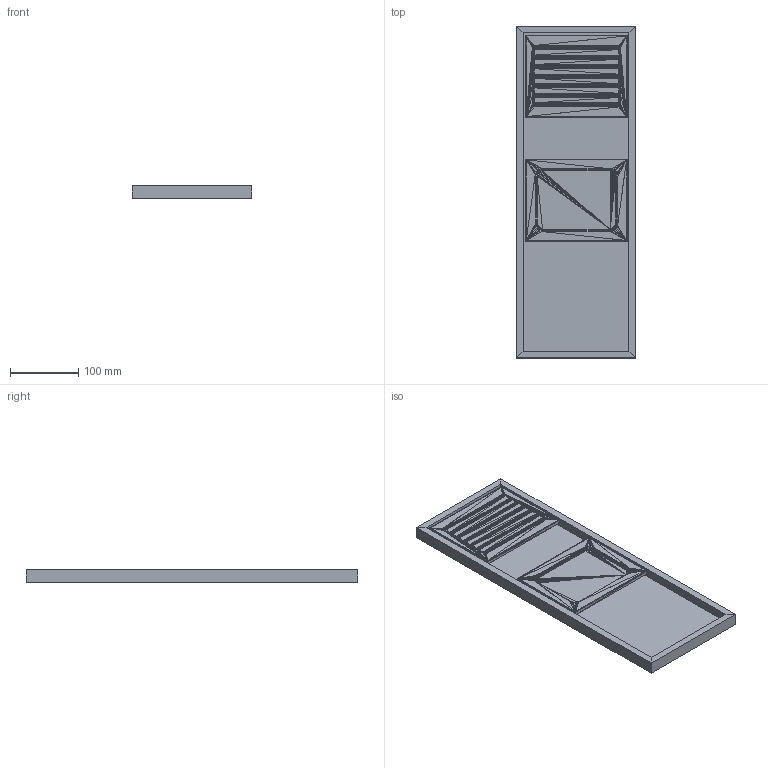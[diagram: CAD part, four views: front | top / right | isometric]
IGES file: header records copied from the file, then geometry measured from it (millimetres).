
Start section: Data from Parasolid IGES Translator 19.0.9, Copyright(c) 2006 Siemens PL M Software. All Rights Reserved.
Global section: file name: noorth_vassoio per top finn | tray for top finn_2960.igs; native system: By Siemens PLM Incorporated; preprocessor: XPlus GENERIC/IGES 19.0.9; author: Noname; organization: Noname; date: 20200903.085045; units: metre
Bounding box: 175 x 486 x 18 mm (x, y, z)
Volume: 447450 mm3; surface area: 309688 mm2
Topology: 5 solids, 5 shells, 6550 faces, 19620 edges, 19600 vertices
Faces by surface type: extrusion 6520, plane 30
